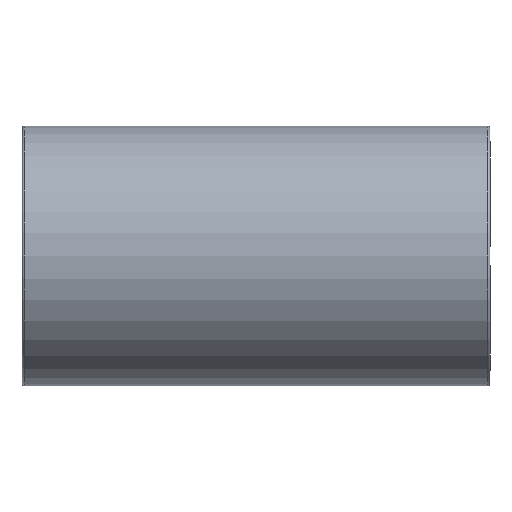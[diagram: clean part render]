
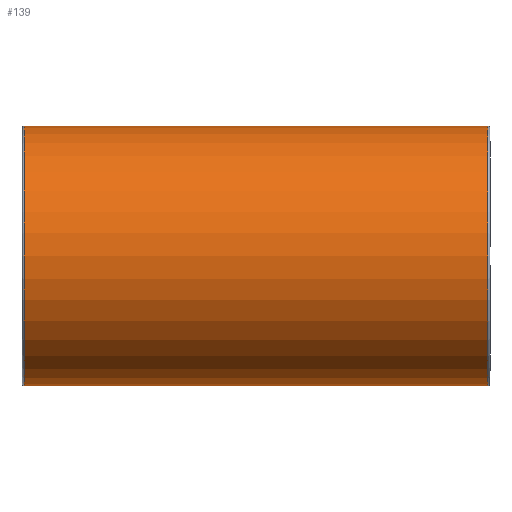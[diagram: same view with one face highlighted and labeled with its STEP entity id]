
A CAD part, front view. The second image highlights one B-rep face of the part: STEP entity #139.
In plain terms, the highlighted cylindrical face has radius 10 mm (diameter 20 mm), a full revolution.
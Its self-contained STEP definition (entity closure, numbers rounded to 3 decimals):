
#17=CYLINDRICAL_SURFACE('',#158,10.);
#27=FACE_BOUND('',#56,.T.);
#39=FACE_OUTER_BOUND('',#55,.T.);
#55=EDGE_LOOP('',(#115));
#56=EDGE_LOOP('',(#116));
#75=CIRCLE('',#157,10.);
#76=CIRCLE('',#159,10.);
#87=VERTEX_POINT('',#236);
#88=VERTEX_POINT('',#239);
#99=EDGE_CURVE('',#87,#87,#75,.T.);
#100=EDGE_CURVE('',#88,#88,#76,.T.);
#115=ORIENTED_EDGE('',*,*,#100,.F.);
#116=ORIENTED_EDGE('',*,*,#99,.F.);
#139=ADVANCED_FACE('',(#39,#27),#17,.T.);
#157=AXIS2_PLACEMENT_3D('',#237,#191,#192);
#158=AXIS2_PLACEMENT_3D('',#238,#193,#194);
#159=AXIS2_PLACEMENT_3D('',#240,#195,#196);
#191=DIRECTION('center_axis',(1.,0.,0.));
#192=DIRECTION('ref_axis',(0.,1.,0.));
#193=DIRECTION('center_axis',(-1.,0.,0.));
#194=DIRECTION('ref_axis',(0.,-1.,0.));
#195=DIRECTION('center_axis',(-1.,0.,0.));
#196=DIRECTION('ref_axis',(0.,1.,0.));
#236=CARTESIAN_POINT('',(17.84,-10.,0.));
#237=CARTESIAN_POINT('Origin',(17.84,0.,0.));
#238=CARTESIAN_POINT('Origin',(-10.,0.,0.));
#239=CARTESIAN_POINT('',(-17.84,-10.,0.));
#240=CARTESIAN_POINT('Origin',(-17.84,0.,0.));
